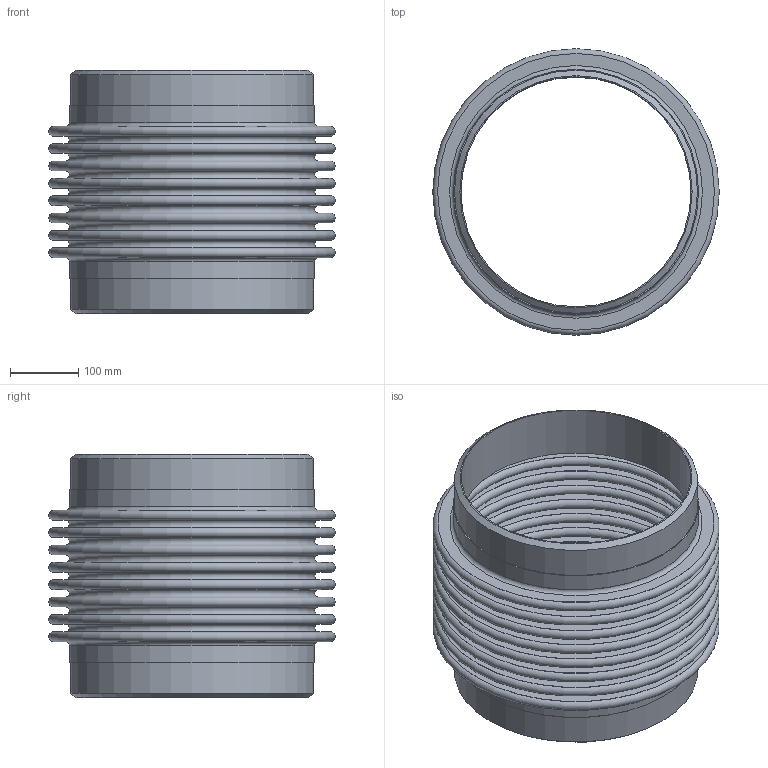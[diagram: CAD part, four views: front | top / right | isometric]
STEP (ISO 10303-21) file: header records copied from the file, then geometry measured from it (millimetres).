
FILE_DESCRIPTION(/* description */ (''),/* implementation_level */ '2;1');
FILE_NAME(/* name */ 'PIPE- 14 - 150 PSIG ASSEMBLY PART.stp',/* time_stamp */ '2026-07-24T15:37:52-05:00',/* author */ ('jorgef'),/* organization */ (''),/* preprocessor_version */ 'ST-DEVELOPER v20.1',/* originating_system */ 'Autodesk Inventor 2026',/* authorisation */ '');
FILE_SCHEMA (('AUTOMOTIVE_DESIGN { 1 0 10303 214 3 1 1 }'));
Length unit declared in the file: inch
Products named in the file (1): PIPE- 14 - 150 PSIG ASSEMBLY PART
Bounding box: 419.1 x 419.1 x 355.6 mm (x, y, z)
Volume: 2723875.3 mm3; surface area: 1826930.1 mm2
Topology: 1 solids, 1 shells, 80 faces, 126 edges, 84 vertices
Faces by surface type: plane 38, torus 34, cylinder 6, cone 2
Full cylindrical faces by diameter (mm): 336.55 x2, 355.6 x2, 358.648 x2
Entity records: 2035 total; most frequent: DIRECTION 406, CARTESIAN_POINT 291, ORIENTED_EDGE 252, AXIS2_PLACEMENT_3D 199, EDGE_CURVE 126, EDGE_LOOP 118, CIRCLE 118, VERTEX_POINT 84
